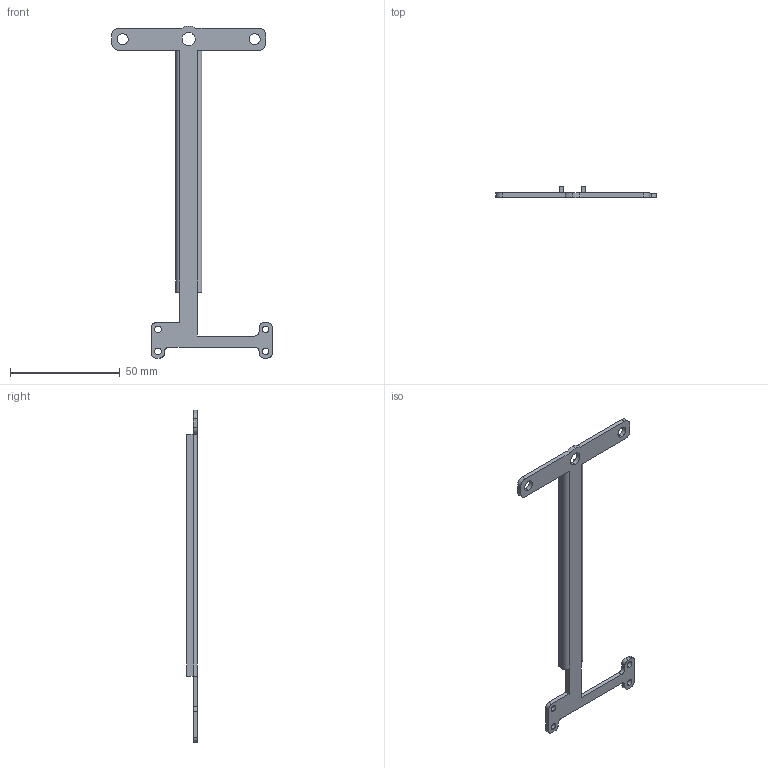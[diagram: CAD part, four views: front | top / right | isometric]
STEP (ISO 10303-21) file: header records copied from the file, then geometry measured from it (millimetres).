
FILE_DESCRIPTION (( 'STEP AP203' ), '1' );
FILE_NAME ('儂迮旋3僇.STEP', '2025-08-22T12:52:16', ( '' ), ( '' ), 'SwSTEP 2.0', 'SolidWorks 2025', '' );
FILE_SCHEMA (( 'CONFIG_CONTROL_DESIGN' ));
Length unit declared in the file: millimetre
Products named in the file (1): 机械臂3段
Bounding box: 73 x 5 x 151 mm (x, y, z)
Volume: 6184.2 mm3; surface area: 7469.4 mm2
Topology: 1 solids, 1 shells, 63 faces, 175 edges, 114 vertices
Faces by surface type: cylinder 32, plane 31
Entity records: 2134 total; most frequent: DIRECTION 367, CARTESIAN_POINT 353, ORIENTED_EDGE 350, EDGE_CURVE 175, AXIS2_PLACEMENT_3D 128, VERTEX_POINT 114, LINE 111, VECTOR 111
